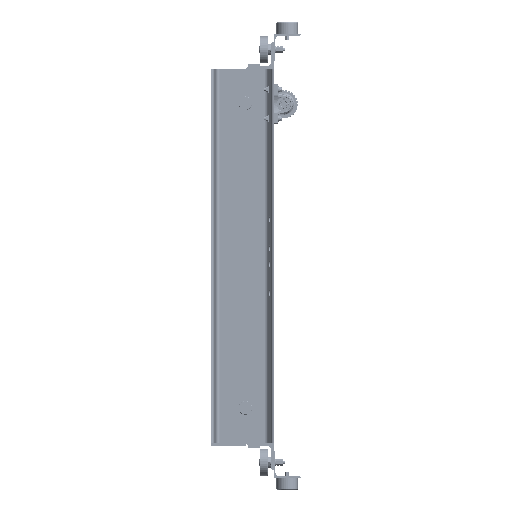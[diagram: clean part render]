
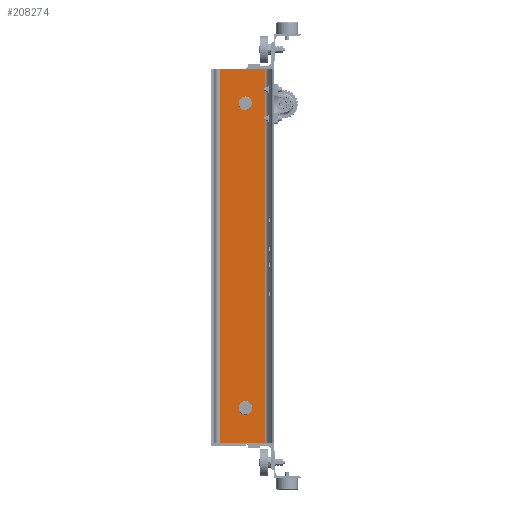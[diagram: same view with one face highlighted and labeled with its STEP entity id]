
A CAD part, left-side view. The second image highlights one B-rep face of the part: STEP entity #208274.
In plain terms, the highlighted planar face has unit normal (-1, 0, 0) as drawn and (1, 0, 0) by its records, which use the part's own axes.
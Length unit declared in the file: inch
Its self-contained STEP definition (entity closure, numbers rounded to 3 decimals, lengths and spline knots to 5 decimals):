
#310 = CARTESIAN_POINT ( 'NONE',  ( 0.353, 6.85768, 24. ) ) ;
#1839 = CARTESIAN_POINT ( 'NONE',  ( 0.353, 3.622, 19.5 ) ) ;
#2309 = CARTESIAN_POINT ( 'NONE',  ( 0.353, 6.85768, -24. ) ) ;
#6674 = VERTEX_POINT ( 'NONE', #25455 ) ;
#14854 = ORIENTED_EDGE ( 'NONE', *, *, #182360, .F. ) ;
#16426 = CARTESIAN_POINT ( 'NONE',  ( 0.353, 6.85768, -24. ) ) ;
#17504 = DIRECTION ( 'NONE',  ( 0., 1., 0. ) ) ;
#19658 = DIRECTION ( 'NONE',  ( -1., 0., 0. ) ) ;
#20557 = ORIENTED_EDGE ( 'NONE', *, *, #194630, .T. ) ;
#21747 = PLANE ( 'NONE',  #93479 ) ;
#23880 = ORIENTED_EDGE ( 'NONE', *, *, #59831, .F. ) ;
#25455 = CARTESIAN_POINT ( 'NONE',  ( 0.353, 1.14232, 24. ) ) ;
#28485 = CARTESIAN_POINT ( 'NONE',  ( 0.353, 3.622, -19.5 ) ) ;
#29010 = ORIENTED_EDGE ( 'NONE', *, *, #73184, .T. ) ;
#30080 = VERTEX_POINT ( 'NONE', #51614 ) ;
#30324 = VERTEX_POINT ( 'NONE', #89163 ) ;
#36935 = EDGE_CURVE ( 'NONE', #204283, #30324, #102908, .T. ) ;
#37264 = CARTESIAN_POINT ( 'NONE',  ( 0.353, 6.85768, 24. ) ) ;
#38364 = DIRECTION ( 'NONE',  ( 0., 1., 0. ) ) ;
#44208 = VECTOR ( 'NONE', #214207, 39.37008 ) ;
#44776 = EDGE_CURVE ( 'NONE', #30324, #204283, #76086, .T. ) ;
#44982 = CARTESIAN_POINT ( 'NONE',  ( 0.353, 1.14232, -24. ) ) ;
#50328 = DIRECTION ( 'NONE',  ( 0., 1., 0. ) ) ;
#51614 = CARTESIAN_POINT ( 'NONE',  ( 0.353, 3.622, -18.711 ) ) ;
#51655 = VECTOR ( 'NONE', #185094, 39.37008 ) ;
#53861 = DIRECTION ( 'NONE',  ( 0., 1., 0. ) ) ;
#54977 = FACE_BOUND ( 'NONE', #111710, .T. ) ;
#56320 = VECTOR ( 'NONE', #171194, 39.37008 ) ;
#59831 = EDGE_CURVE ( 'NONE', #145945, #207598, #87198, .T. ) ;
#60421 = ORIENTED_EDGE ( 'NONE', *, *, #36935, .T. ) ;
#62621 = LINE ( 'NONE', #147744, #44208 ) ;
#64767 = DIRECTION ( 'NONE',  ( -1., 0., 0. ) ) ;
#65711 = ORIENTED_EDGE ( 'NONE', *, *, #44776, .T. ) ;
#66137 = ORIENTED_EDGE ( 'NONE', *, *, #98687, .T. ) ;
#73161 = AXIS2_PLACEMENT_3D ( 'NONE', #28485, #171003, #137842 ) ;
#73184 = EDGE_CURVE ( 'NONE', #30080, #122243, #218532, .T. ) ;
#76086 = CIRCLE ( 'NONE', #196260, 0.789 ) ;
#78310 = EDGE_LOOP ( 'NONE', ( #14854, #23880, #20557, #129675 ) ) ;
#87198 = LINE ( 'NONE', #121453, #173111 ) ;
#88253 = CARTESIAN_POINT ( 'NONE',  ( 0.353, 3.622, 19.5 ) ) ;
#89163 = CARTESIAN_POINT ( 'NONE',  ( 0.353, 3.622, 18.711 ) ) ;
#90366 = FACE_OUTER_BOUND ( 'NONE', #78310, .T. ) ;
#93479 = AXIS2_PLACEMENT_3D ( 'NONE', #37264, #123497, #38364 ) ;
#98687 = EDGE_CURVE ( 'NONE', #122243, #30080, #129647, .T. ) ;
#102908 = CIRCLE ( 'NONE', #198316, 0.789 ) ;
#109066 = AXIS2_PLACEMENT_3D ( 'NONE', #216330, #64767, #50328 ) ;
#111710 = EDGE_LOOP ( 'NONE', ( #29010, #66137 ) ) ;
#116990 = DIRECTION ( 'NONE',  ( -1., 0., 0. ) ) ;
#121453 = CARTESIAN_POINT ( 'NONE',  ( 0.353, 6.85768, 24. ) ) ;
#122243 = VERTEX_POINT ( 'NONE', #173736 ) ;
#123497 = DIRECTION ( 'NONE',  ( 1., 0., 0. ) ) ;
#129647 = CIRCLE ( 'NONE', #73161, 0.789 ) ;
#129675 = ORIENTED_EDGE ( 'NONE', *, *, #193517, .T. ) ;
#137468 = LINE ( 'NONE', #310, #51655 ) ;
#137842 = DIRECTION ( 'NONE',  ( 0., 1., 0. ) ) ;
#145945 = VERTEX_POINT ( 'NONE', #213318 ) ;
#147744 = CARTESIAN_POINT ( 'NONE',  ( 0.353, 1.14232, 24. ) ) ;
#151508 = VERTEX_POINT ( 'NONE', #44982 ) ;
#170136 = DIRECTION ( 'NONE',  ( 0., 0., -1. ) ) ;
#171003 = DIRECTION ( 'NONE',  ( -1., 0., 0. ) ) ;
#171194 = DIRECTION ( 'NONE',  ( 0., -1., 0. ) ) ;
#173111 = VECTOR ( 'NONE', #170136, 39.37008 ) ;
#173284 = FACE_BOUND ( 'NONE', #196329, .T. ) ;
#173736 = CARTESIAN_POINT ( 'NONE',  ( 0.353, 3.622, -20.289 ) ) ;
#182360 = EDGE_CURVE ( 'NONE', #207598, #151508, #185661, .T. ) ;
#185094 = DIRECTION ( 'NONE',  ( 0., -1., 0. ) ) ;
#185661 = LINE ( 'NONE', #16426, #56320 ) ;
#193517 = EDGE_CURVE ( 'NONE', #6674, #151508, #62621, .T. ) ;
#194630 = EDGE_CURVE ( 'NONE', #145945, #6674, #137468, .T. ) ;
#196260 = AXIS2_PLACEMENT_3D ( 'NONE', #1839, #116990, #53861 ) ;
#196329 = EDGE_LOOP ( 'NONE', ( #60421, #65711 ) ) ;
#198316 = AXIS2_PLACEMENT_3D ( 'NONE', #88253, #19658, #17504 ) ;
#200574 = CARTESIAN_POINT ( 'NONE',  ( 0.353, 3.622, 20.289 ) ) ;
#204283 = VERTEX_POINT ( 'NONE', #200574 ) ;
#207598 = VERTEX_POINT ( 'NONE', #2309 ) ;
#208274 = ADVANCED_FACE ( 'NONE', ( #173284, #90366, #54977 ), #21747, .T. ) ;
#213318 = CARTESIAN_POINT ( 'NONE',  ( 0.353, 6.85768, 24. ) ) ;
#214207 = DIRECTION ( 'NONE',  ( 0., 0., -1. ) ) ;
#216330 = CARTESIAN_POINT ( 'NONE',  ( 0.353, 3.622, -19.5 ) ) ;
#218532 = CIRCLE ( 'NONE', #109066, 0.789 ) ;
